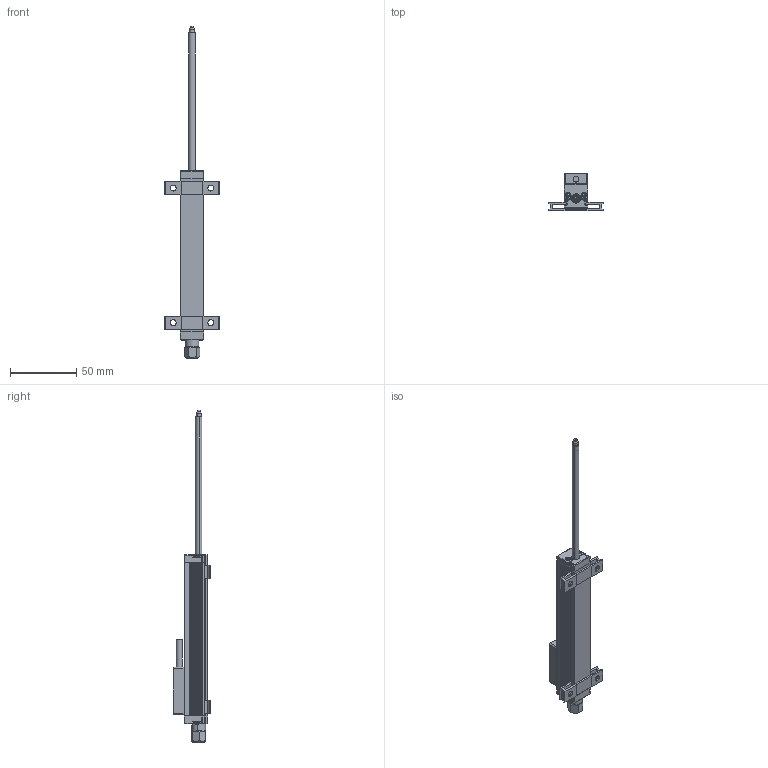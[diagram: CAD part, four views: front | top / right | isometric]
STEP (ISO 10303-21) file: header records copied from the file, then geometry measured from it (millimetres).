
FILE_DESCRIPTION (( 'STEP AP214' ), '1' );
FILE_NAME ('LTR-75 A-V Kablolu.STEP', '2020-12-16T05:24:48', ( '' ), ( '' ), 'SwSTEP 2.0', 'SolidWorks 2014', '' );
FILE_SCHEMA (( 'AUTOMOTIVE_DESIGN' ));
Length unit declared in the file: millimetre
Products named in the file (1): LTR-75 A-V Kablolu
Bounding box: 41 x 28.1 x 251.4 mm (x, y, z)
Surface area: 19214.4 mm2 (no closed solid volume)
Topology: 0 solids, 18 shells, 520 faces, 1675 edges, 1116 vertices
Faces by surface type: plane 217, cylinder 201, cone 40, sphere 34, torus 28
Entity records: 24306 total; most frequent: CARTESIAN_POINT 4239, DIRECTION 3137, ORIENTED_EDGE 2735, EDGE_CURVE 1645, AXIS2_PLACEMENT_3D 1162, VERTEX_POINT 1116, VECTOR 813, LINE 813
